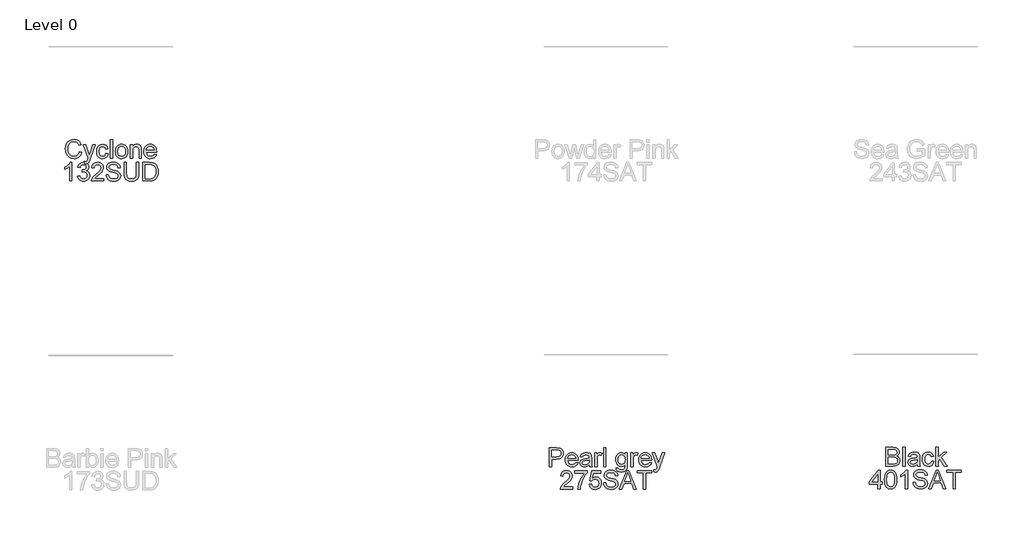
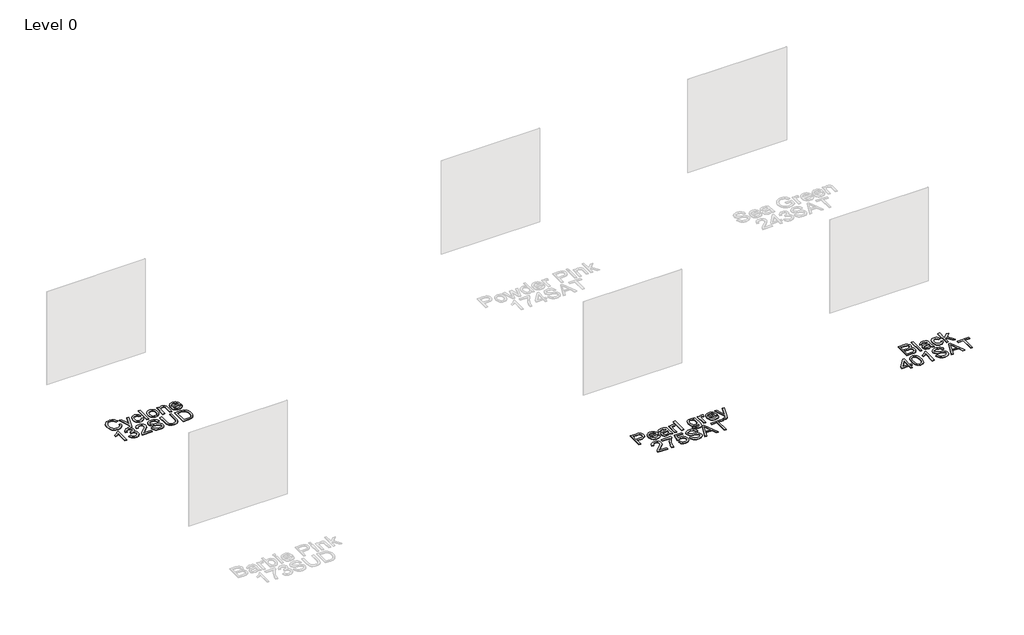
# One storey, part 29 of 37: 3 proxies.
"""IFC4 building model written with IfcOpenShell, lengths in millimetres."""

from ifc_helpers import new_model, si_unit, origin, origin_with_axes, place, context, project, spatial, polyline, outline, extrude, element, save

model = new_model("IFC4")

# Units and contexts
model_context = context("Model", 3, world=origin())
ifc_project = project(units=[si_unit("LENGTHUNIT", "METRE", prefix="MILLI")], contexts=[model_context])

# Site, building, storey
site = spatial("IfcSite", under=ifc_project)
building = spatial("IfcBuilding", under=site)
storey = spatial("IfcBuildingStorey", under=building, Name="Level 0", Elevation=0.0)

# Proxies
placement = place(None, origin())
element("IfcBuildingElementProxy", 1, Name="300mm Arial", ObjectType="300mm Arial", at=placement, inside=storey, context=model_context, shape_type="SweptSolid", body=[
    extrude(outline(polyline([(10043.1363183, -6895.733257), (10080.8074346, -6905.4453417), (10073.3532257, -6928.872527), (10063.4250104, -6949.3428607), (10051.0227886, -6966.856343), (10036.1465604, -6981.4129737), (10019.1320181, -6992.856403), (10000.3148541, -7001.0302811), (9979.6950683, -7005.9346079), (9957.2726607, -7007.5693835), (9913.5774767, -7002.6213707), (9878.8770075, -6987.7773322), (9852.2791392, -6963.5523028), (9832.8917581, -6930.4613173), (9821.0551549, -6891.5577963), (9817.1096205, -6849.8951604), (9821.5701897, -6805.9516561), (9834.9518973, -6768.0046283), (9856.5557674, -6737.2588905), (9885.6828244, -6714.9192564), (9920.2269437, -6701.3168196), (9958.082001, -6696.782674), (9999.3859521, -6702.6503918), (10017.3546883, -6709.9850391), (10033.5345983, -6720.2535453), (10047.6589676, -6733.1845974), (10059.4610819, -6748.5068825), (10076.0985451, -6786.3251516), (10038.4274288, -6795.3014723), (10025.367618, -6767.8298843), (10007.5253412, -6748.9851291), (9984.6798693, -6738.086625), (9956.6104731, -6734.4537903), (9924.2552516, -6738.4820981), (9897.6757774, -6750.5670217), (9877.5066471, -6769.439368), (9864.3824569, -6793.8299443), (9857.1811668, -6821.4026999), (9854.7807368, -6849.821584), (9857.6226252, -6884.6232207), (9866.1482904, -6914.7159679), (9880.6796293, -6938.9501944), (9901.5385384, -6956.1762688), (9926.545317, -6966.4677676), (9953.5202643, -6969.8982672), (9984.9649778, -6965.2261659), (10011.1673729, -6951.2098619), (10030.9502272, -6927.996508), (10043.1363183, -6895.733257)])), origin_with_axes(), (0.0, 0.0, 1.0), 10.0),
    extrude(outline(polyline([(10127.89633, -7087.6205057), (10123.1874405, -7051.3473409), (10142.3173042, -7054.6582789), (10160.1963692, -7050.5012124), (10171.1592527, -7038.9129295), (10181.4599485, -7011.1746271), (10184.4030045, -7002.0511536), (10104.3518823, -6781.5426857), (10144.0831378, -6781.5426857), (10186.53672, -6904.4152721), (10201.3255763, -6953.5643066), (10216.1144325, -6910.1542312), (10259.7452371, -6781.5426857), (10299.182187, -6781.5426857), (10222.1476972, -7008.1579947), (10202.1349166, -7057.3070293), (10191.8894031, -7072.9971964), (10180.2827261, -7083.8681093), (10166.799851, -7090.2140737), (10150.9257429, -7092.3293952), (10127.89633, -7087.6205057)])), origin_with_axes(), (0.0, 0.0, 1.0), 10.0),
    extrude(outline(polyline([(10471.6452663, -6922.8093718), (10509.3163826, -6927.5182614), (10498.8133517, -6961.0231141), (10479.0764826, -6986.3425924), (10451.9635796, -7002.2626857), (10419.3324466, -7007.5693835), (10398.2045238, -7005.7184772), (10379.2609003, -7000.1657584), (10362.5015761, -6990.9112269), (10347.9265513, -6977.9548829), (10336.1290356, -6961.5404481), (10327.7022386, -6941.9116444), (10322.6461605, -6919.0684718), (10320.9608011, -6893.0109302), (10323.8394777, -6859.4876834), (10332.4755075, -6830.4342028), (10347.0068463, -6806.9725286), (10367.5714499, -6790.2247008), (10392.1735583, -6780.1815223), (10418.8174118, -6776.8337961), (10450.6484014, -6781.4323211), (10476.0966385, -6795.2278959), (10494.3527825, -6817.4847566), (10504.6074931, -6847.4671392), (10466.9363768, -6852.1760288), (10460.1029687, -6835.7409006), (10449.461982, -6823.9594797), (10435.6020278, -6816.8685543), (10419.1117174, -6814.5049125), (10394.7671264, -6819.1586197), (10375.4441246, -6833.1197414), (10362.8349692, -6857.1424357), (10358.6319174, -6891.9808606), (10362.7429987, -6927.2883351), (10375.0762426, -6951.3938029), (10394.0497565, -6965.2721511), (10418.0816478, -6969.8982672), (10437.5885906, -6967.0103936), (10453.5822603, -6958.3467726), (10465.2165284, -6943.6866751), (10471.6452663, -6922.8093718)])), origin_with_axes(), (0.0, 0.0, 1.0), 10.0),
    extrude(outline(polyline([(10542.2786094, -7002.860494), (10542.2786094, -6701.4915635), (10579.9497257, -6701.4915635), (10579.9497257, -7002.860494), (10542.2786094, -7002.860494)])), origin_with_axes(), (0.0, 0.0, 1.0), 10.0),
    extrude(outline(polyline([(10627.0386211, -6892.2015898), (10629.0757676, -6863.5389839), (10635.1872073, -6838.8403064), (10645.37294, -6818.1055575), (10659.6329658, -6801.334737), (10673.9895607, -6790.6155754), (10689.8360777, -6782.9590314), (10707.1725167, -6778.3651049), (10725.9988778, -6776.8337961), (10746.7819112, -6778.698498), (10765.5737834, -6784.2926036), (10782.3744943, -6793.6161129), (10797.1840438, -6806.669026), (10809.2712666, -6823.0098843), (10817.9049972, -6842.1972296), (10823.0852356, -6864.2310619), (10824.8119817, -6889.1113811), (10821.7585611, -6927.1687735), (10812.5982994, -6956.1394806), (10797.5979111, -6977.8353213), (10777.0241105, -6994.0681143), (10752.587549, -7004.1940662), (10725.9988778, -7007.5693835), (10704.9123417, -7005.7115794), (10685.9457256, -7000.1381672), (10669.0990294, -6990.8491468), (10654.3722533, -6977.8445183), (10642.4137892, -6961.3450108), (10633.8720291, -6941.5713536), (10628.7469731, -6918.5235466), (10627.0386211, -6892.2015898)]), holes=[polyline([(10664.7097374, -6892.1280134), (10669.069139, -6926.2214773), (10682.147344, -6950.5108861), (10701.8290307, -6965.0514219), (10725.9988778, -6969.8982672), (10750.0583603, -6965.0238308), (10769.7032588, -6950.4005215), (10782.7814637, -6925.789216), (10787.1408654, -6890.950791), (10782.7538726, -6857.8506085), (10769.5928942, -6833.8922936), (10749.9204045, -6819.3517577), (10725.9988778, -6814.5049125), (10701.8290307, -6819.3333636), (10682.147344, -6833.8187172), (10669.069139, -6858.0529436), (10664.7097374, -6892.1280134)])]), origin_with_axes(), (0.0, 0.0, 1.0), 10.0),
    extrude(outline(polyline([(10867.1919875, -7002.860494), (10867.1919875, -6781.5426857), (10904.8631038, -6781.5426857), (10904.8631038, -6812.4447733), (10917.9505058, -6796.8649708), (10933.6682641, -6785.7365404), (10952.0163786, -6779.0594822), (10972.9948493, -6776.8337961), (10991.563693, -6778.6272209), (11008.5690383, -6784.0074951), (11022.7508892, -6792.303234), (11032.84925, -6802.8430532), (11044.1432272, -6830.5445674), (11046.12979, -6866.964885), (11046.12979, -7002.860494), (11008.4586737, -7002.860494), (11008.4586737, -6872.0416565), (11004.1176661, -6838.7115477), (10998.1119926, -6828.7879309), (10988.7769869, -6821.0900002), (10976.811625, -6816.1511844), (10962.9148827, -6814.5049125), (10940.85116, -6818.2021265), (10922.043193, -6829.2937687), (10914.526904, -6838.3482643), (10909.1581261, -6850.7228949), (10904.8631038, -6885.4325611), (10904.8631038, -7002.860494), (10867.1919875, -7002.860494)])), origin_with_axes(), (0.0, 0.0, 1.0), 10.0),
    extrude(outline(polyline([(11252.8794713, -6936.9360404), (11289.8148236, -6941.64493), (11276.5066924, -6969.4752029), (11255.2707042, -6990.2789297), (11226.5851057, -7003.2467701), (11190.9281433, -7007.5693835), (11167.553841, -7005.7046817), (11146.7271216, -7000.1105761), (11128.4479849, -6990.7870668), (11112.7164311, -6977.7341537), (11100.065889, -6961.3151204), (11091.0297875, -6941.8932503), (11085.6081266, -6919.4685435), (11083.8009063, -6894.0409998), (11085.6265207, -6867.7512327), (11091.1033639, -6844.5792656), (11100.2314359, -6824.5250983), (11113.0107367, -6807.5887309), (11128.7009038, -6794.133447), (11146.5615747, -6784.5225298), (11166.5927493, -6778.7559796), (11188.7944277, -6776.8337961), (11210.2810355, -6778.751381), (11229.7121026, -6784.5041357), (11247.0876291, -6794.0920602), (11262.4076149, -6807.5151545), (11274.9133035, -6824.4147337), (11283.8459382, -6844.4321128), (11289.205519, -6867.5672917), (11290.992046, -6893.8202706), (11290.7713168, -6903.9738137), (11121.4720226, -6903.9738137), (11127.992731, -6932.1719686), (11143.1402721, -6952.902119), (11165.0016597, -6965.6492302), (11191.6639073, -6969.8982672), (11211.713476, -6967.9300985), (11228.5992596, -6962.0255925), (11242.321258, -6951.8168672), (11252.8794713, -6936.9360404)]), holes=[polyline([(11121.4720226, -6866.3026974), (11253.3209297, -6866.3026974), (11248.225764, -6846.4002814), (11238.2377679, -6832.1632482), (11216.2752127, -6818.9194964), (11188.6472749, -6814.5049125), (11163.2542202, -6818.0273826), (11142.2573553, -6828.5947929), (11127.6616372, -6845.0667092), (11121.4720226, -6866.3026974)])]), origin_with_axes(), (0.0, 0.0, 1.0), 10.0),
    extrude(outline(polyline([(9923.0596351, -7368.7849475), (9885.3885188, -7368.7849475), (9885.3885188, -7133.9290818), (9849.7039653, -7159.3497277), (9810.0462862, -7178.3692268), (9810.0462862, -7142.7582497), (9839.6331956, -7126.6634124), (9865.2653737, -7107.5151545), (9885.4712922, -7087.1528861), (9898.7794234, -7067.4160171), (9923.0596351, -7067.4160171), (9923.0596351, -7368.7849475)])), origin_with_axes(), (0.0, 0.0, 1.0), 10.0),
    extrude(outline(polyline([(10012.5285363, -7288.7338254), (10050.1996526, -7284.0249358), (10058.6333474, -7307.6981422), (10070.9849854, -7323.6826149), (10087.8615719, -7332.7876943), (10109.8701123, -7335.8227207), (10135.6954283, -7331.6472601), (10155.6346325, -7319.1208782), (10168.3817436, -7300.4324728), (10172.6307806, -7277.7709419), (10168.4185318, -7256.2590422), (10155.7817853, -7238.8122386), (10136.6519215, -7227.2515469), (10112.960321, -7223.397983), (10086.5463938, -7227.5182614), (10090.7402485, -7189.8471451), (10096.7735132, -7190.2886035), (10119.3430736, -7187.5846708), (10139.5214011, -7179.4728728), (10153.7584343, -7165.7508744), (10158.504112, -7146.2163404), (10155.0644154, -7129.9467592), (10144.7453254, -7116.7489926), (10128.999976, -7108.0025982), (10109.2815011, -7105.0871334), (10089.5262379, -7108.0301893), (10073.3762183, -7116.8593572), (10061.5856004, -7131.574637), (10054.9085422, -7152.1760288), (10017.2374259, -7147.4671392), (10028.329068, -7113.6403898), (10048.0659371, -7088.3852908), (10075.0684755, -7072.6583355), (10107.9571259, -7067.4160171), (10131.6395293, -7070.0003881), (10153.3905523, -7077.7535011), (10171.7294697, -7089.9855775), (10185.1755567, -7106.0068384), (10193.4253104, -7124.4653175), (10196.1752283, -7144.0090485), (10193.5632662, -7162.2192072), (10185.7273797, -7178.7371088), (10172.7779334, -7192.8085951), (10154.8252921, -7203.6795081), (10178.406528, -7213.2076518), (10195.8809227, -7229.4312477), (10206.6966534, -7251.4673793), (10210.3018969, -7278.4331295), (10208.4992752, -7297.5445992), (10203.0914098, -7315.1477526), (10194.078301, -7331.2425899), (10181.4599485, -7345.829111), (10166.0870796, -7357.9324287), (10148.8104214, -7366.5776555), (10129.6299739, -7371.7647917), (10108.5457371, -7373.4938371), (10089.4894497, -7372.0177105), (10072.1254195, -7367.589331), (10056.4536466, -7360.2086985), (10042.4741307, -7349.875813), (10030.7524907, -7337.1976797), (10021.8543449, -7322.781304), (10015.7796935, -7306.6266859), (10012.5285363, -7288.7338254)])), origin_with_axes(), (0.0, 0.0, 1.0), 10.0),
    extrude(outline(polyline([(10436.3285948, -7331.1138312), (10436.3285948, -7368.7849475), (10238.5552342, -7368.7849475), (10242.6019361, -7342.8124787), (10251.8909565, -7322.5145896), (10265.4841962, -7302.8237058), (10285.1474889, -7282.213117), (10312.646668, -7259.156113), (10353.2976285, -7223.0484951), (10377.6882047, -7196.3954446), (10389.8834929, -7174.7639833), (10393.9485889, -7153.7211331), (10390.1134191, -7134.8579838), (10378.6079097, -7119.1770138), (10360.9219828, -7108.6096035), (10338.5455605, -7105.0871334), (10315.047098, -7108.52683), (10296.790954, -7118.84592), (10285.0095331, -7135.2350629), (10280.93524, -7156.8849183), (10243.2641237, -7152.1760288), (10252.3967942, -7115.7373171), (10260.9431528, -7101.2013798), (10272.1428603, -7089.1210548), (10285.7383993, -7079.6251008), (10301.4722524, -7072.8422765), (10339.3549008, -7067.4160171), (10359.5447246, -7068.9243332), (10377.5134608, -7073.4492818), (10393.2611095, -7080.9908627), (10406.7876706, -7091.549076), (10417.6516857, -7104.3421723), (10425.4116966, -7118.5884026), (10430.0677031, -7134.2877667), (10431.6197052, -7151.4402648), (10429.9458422, -7169.4572855), (10424.9242529, -7187.1616065), (10416.0123116, -7205.1694302), (10402.6673922, -7224.0969588), (10381.3946158, -7246.6941104), (10348.6991035, -7275.7108027), (10305.3626045, -7311.9471793), (10288.3664563, -7331.1138312), (10436.3285948, -7331.1138312)])), origin_with_axes(), (0.0, 0.0, 1.0), 10.0),
    extrude(outline(polyline([(10473.9997111, -7265.1893777), (10511.6708274, -7265.1893777), (10515.9934408, -7286.0942721), (10523.8109332, -7302.8972822), (10536.0062214, -7316.2330045), (10553.462222, -7326.7360355), (10574.7993778, -7333.5510494), (10598.638131, -7335.8227207), (10619.6257989, -7334.1028724), (10638.0015045, -7328.9433274), (10652.8915283, -7320.7763471), (10663.4221504, -7310.0341929), (10669.6853414, -7297.700949), (10671.7730717, -7284.7606998), (10670.2095732, -7272.1515444), (10665.5190778, -7261.2530403), (10655.9909341, -7251.9548229), (10639.9144909, -7244.1465276), (10585.0632854, -7229.7623415), (10549.0568351, -7220.2433949), (10526.0182252, -7211.1843008), (10507.2654405, -7198.510766), (10493.9757034, -7183.1516928), (10486.0570435, -7165.4381747), (10483.4174902, -7145.7013056), (10486.6824429, -7123.637583), (10496.477301, -7103.0637824), (10512.5445471, -7085.6261758), (10534.6266639, -7072.9710352), (10561.1325616, -7065.2731044), (10590.4711508, -7062.7071275), (10622.2561551, -7065.3926661), (10650.068034, -7073.4492818), (10672.9135059, -7086.7114277), (10689.7992895, -7105.013557), (10700.4862614, -7127.2152354), (10704.7352985, -7152.1760288), (10667.0641821, -7152.1760288), (10660.1480006, -7129.6984389), (10645.7270264, -7113.4748429), (10623.1942542, -7103.6523936), (10591.9426787, -7100.3782438), (10559.9553393, -7103.6156054), (10538.0111782, -7113.3276901), (10525.3192494, -7127.6199056), (10521.0886065, -7144.5976597), (10524.0868447, -7159.0738162), (10533.0815595, -7170.7172813), (10554.3451388, -7181.1283418), (10594.5914291, -7191.7601314), (10636.1253064, -7201.8584922), (10661.2516466, -7210.669266), (10682.7267581, -7224.3360821), (10697.7087523, -7241.2034716), (10706.5103291, -7261.0874934), (10709.444188, -7283.8042066), (10706.0688707, -7307.0267576), (10695.9429188, -7328.869751), (10679.4801995, -7347.668521), (10657.0945801, -7361.7584014), (10630.1748151, -7370.5599781), (10600.109659, -7373.4938371), (10563.2018979, -7370.3300519), (10532.8240421, -7360.8386964), (10508.6266039, -7344.9829824), (10490.2600953, -7322.7261217), (10478.4694773, -7295.6132187), (10473.9997111, -7265.1893777)])), origin_with_axes(), (0.0, 0.0, 1.0), 10.0),
    extrude(outline(polyline([(10963.7242231, -7067.4160171), (11001.3953394, -7067.4160171), (11001.3953394, -7241.277048), (10998.8385595, -7281.9923878), (10991.1682199, -7313.3451308), (10976.8392162, -7337.533372), (10954.306444, -7356.7552063), (10923.514721, -7369.3091794), (10884.4088649, -7373.4938371), (10846.1583345, -7369.8518053), (10815.5781436, -7358.92571), (10792.6590953, -7341.0926303), (10777.3919925, -7316.7296452), (10768.811145, -7284.052527), (10765.9508625, -7241.277048), (10765.9508625, -7067.4160171), (10803.6219788, -7067.4160171), (10803.6219788, -7239.9526728), (10805.4797828, -7273.8070134), (10811.0531951, -7297.3790523), (10821.1515558, -7313.7038158), (10836.5842055, -7325.8163305), (10856.7073507, -7333.3211232), (10880.8771977, -7335.8227207), (10919.1921075, -7330.8747079), (10933.5349068, -7324.6896919), (10944.6679357, -7316.0306694), (10953.0050614, -7303.8537754), (10958.9601512, -7287.1151446), (10963.7242231, -7239.9526728), (10963.7242231, -7067.4160171)])), origin_with_axes(), (0.0, 0.0, 1.0), 10.0),
    extrude(outline(polyline([(11067.3197929, -7368.7849475), (11067.3197929, -7067.4160171), (11171.2832447, -7067.4160171), (11225.0675924, -7071.7570246), (11249.0902867, -7080.12634), (11269.3605847, -7093.3149095), (11290.2010997, -7116.270746), (11305.0451382, -7144.8183889), (11313.9294884, -7178.406015), (11316.8909384, -7216.4818015), (11314.8859816, -7248.8278259), (11308.8711109, -7277.2926953), (11299.7108493, -7301.5269217), (11288.2697192, -7321.1810173), (11275.0995438, -7336.6964405), (11260.752146, -7348.5146496), (11244.2802296, -7357.2794381), (11224.7364986, -7363.6345996), (11176.2864399, -7368.7849475), (11067.3197929, -7368.7849475)]), holes=[polyline([(11104.9909092, -7331.1138312), (11171.6511267, -7331.1138312), (11199.2238823, -7329.7526678), (11220.1379737, -7325.6691777), (11235.9201113, -7319.1024841), (11248.0970053, -7310.2917103), (11261.1844073, -7293.9853408), (11271.0160536, -7272.8781114), (11277.16888, -7246.8780514), (11279.2198221, -7215.8931903), (11275.2007113, -7174.8375597), (11263.1433789, -7144.5240833), (11245.3286933, -7123.7019623), (11224.0375228, -7111.1203981), (11202.3692733, -7106.5954496), (11170.6210571, -7105.0871334), (11104.9909092, -7105.0871334), (11104.9909092, -7331.1138312)])]), origin_with_axes(), (0.0, 0.0, 1.0), 10.0),
])
element("IfcBuildingElementProxy", 2, Name="300mm Arial", ObjectType="300mm Arial", at=placement, inside=storey, context=model_context, shape_type="SweptSolid", body=[
    extrude(outline(polyline([(17633.4629285, -11981.860494), (17633.4629285, -11680.4915635), (17745.1519022, -11680.4915635), (17790.1806584, -11683.3610431), (17810.2578183, -11688.7229232), (17826.784917, -11697.4509235), (17840.0930481, -11709.9405172), (17850.5133057, -11726.5871775), (17857.2455462, -11746.222879), (17859.4896263, -11767.6795964), (17857.9744124, -11786.1794622), (17853.4287705, -11803.198603), (17845.8527006, -11818.7370188), (17835.2462029, -11832.7947095), (17820.6849736, -11844.4473717), (17801.2447095, -11852.7707019), (17776.9254103, -11857.7647), (17747.7270762, -11859.429366), (17671.1340448, -11859.429366), (17671.1340448, -11981.860494), (17633.4629285, -11981.860494)]), holes=[polyline([(17671.1340448, -11821.7582497), (17749.9343682, -11821.7582497), (17783.3380533, -11818.3001589), (17805.410973, -11807.9258867), (17817.7166258, -11791.2792264), (17821.81851, -11769.0039716), (17819.3996859, -11752.0813998), (17812.1432136, -11737.8075784), (17800.9504039, -11727.0654241), (17786.7225677, -11720.7378538), (17749.0514514, -11718.1626798), (17671.1340448, -11718.1626798), (17671.1340448, -11821.7582497)])]), origin_with_axes(), (0.0, 0.0, 1.0), 10.0),
    extrude(outline(polyline([(18061.5304181, -11915.9360404), (18098.4657704, -11920.64493), (18085.1576392, -11948.4752029), (18063.9216511, -11969.2789297), (18035.2360525, -11982.2467701), (17999.5790901, -11986.5693835), (17976.2047878, -11984.7046817), (17955.3780684, -11979.1105761), (17937.0989317, -11969.7870668), (17921.3673779, -11956.7341537), (17908.7168358, -11940.3151204), (17899.6807343, -11920.8932503), (17894.2590734, -11898.4685435), (17892.4518531, -11873.0409998), (17894.2774675, -11846.7512327), (17899.7543107, -11823.5792656), (17908.8823827, -11803.5250983), (17921.6616835, -11786.5887309), (17937.3518506, -11773.133447), (17955.2125215, -11763.5225298), (17975.2436961, -11757.7559796), (17997.4453745, -11755.8337961), (18018.9319823, -11757.751381), (18038.3630494, -11763.5041357), (18055.7385759, -11773.0920602), (18071.0585618, -11786.5151545), (18083.5642503, -11803.4147337), (18092.496885, -11823.4321128), (18097.8564658, -11846.5672917), (18099.6429928, -11872.8202706), (18099.4222636, -11882.9738137), (17930.1229694, -11882.9738137), (17936.6436778, -11911.1719686), (17951.7912189, -11931.902119), (17973.6526065, -11944.6492302), (18000.3148541, -11948.8982672), (18020.3644228, -11946.9300985), (18037.2502064, -11941.0255925), (18050.9722048, -11930.8168672), (18061.5304181, -11915.9360404)]), holes=[polyline([(17930.1229694, -11845.3026974), (18061.9718765, -11845.3026974), (18056.8767108, -11825.4002814), (18046.8887147, -11811.1632482), (18024.9261596, -11797.9194964), (17997.2982217, -11793.5049125), (17971.905167, -11797.0273826), (17950.9083021, -11807.5947929), (17936.312584, -11824.0667092), (17930.1229694, -11845.3026974)])]), origin_with_axes(), (0.0, 0.0, 1.0), 10.0),
    extrude(outline(polyline([(18278.5807952, -11953.6071568), (18260.5821686, -11969.0398064), (18242.0501131, -11979.1381672), (18222.5615644, -11984.7115794), (18201.6934583, -11986.5693835), (18170.2119565, -11982.0996173), (18146.9894056, -11968.6903186), (18132.6695989, -11948.3280501), (18127.89633, -11922.9993748), (18129.6989518, -11907.3827841), (18135.1068171, -11893.2009331), (18143.4485414, -11881.0608273), (18154.0527399, -11871.5694718), (18180.4298789, -11859.2086368), (18213.0242237, -11853.5432541), (18251.5414686, -11847.5835657), (18278.360066, -11840.5938078), (18278.5807952, -11832.2060983), (18275.9872272, -11815.3938912), (18268.206523, -11804.3942195), (18250.8057046, -11796.2272392), (18226.5622811, -11793.5049125), (18204.1214794, -11795.3167313), (18188.4497064, -11800.7521878), (18177.7627345, -11810.8045633), (18170.2763359, -11826.4671392), (18132.6052196, -11821.7582497), (18139.144322, -11801.156858), (18148.9023919, -11784.9700502), (18162.7899373, -11772.590821), (18181.7174659, -11763.4121652), (18204.8664405, -11757.7283884), (18231.4183235, -11755.8337961), (18256.8849546, -11757.5076592), (18277.0724791, -11762.5292485), (18292.2935966, -11770.0800264), (18302.8610069, -11779.3414556), (18309.8691589, -11790.7917827), (18314.4125016, -11804.9092543), (18316.2519115, -11837.8714811), (18316.2519115, -11884.7396473), (18318.1648979, -11950.1858542), (18325.6696906, -11981.860494), (18287.9985743, -11981.860494), (18278.5807952, -11953.6071568)]), holes=[polyline([(18278.5807952, -11878.2649241), (18217.8066896, -11889.8164188), (18185.3962859, -11895.9232599), (18170.7177943, -11905.8560738), (18165.5674463, -11920.3506244), (18168.3725465, -11931.5526311), (18176.7878472, -11940.7312869), (18190.6294072, -11946.8565221), (18209.7132857, -11948.8982672), (18229.9467955, -11946.64499), (18247.8258604, -11939.8851583), (18262.3204111, -11929.9247533), (18272.4003777, -11918.069756), (18276.870144, -11905.8560738), (18278.360066, -11888.933502), (18278.5807952, -11878.2649241)])]), origin_with_axes(), (0.0, 0.0, 1.0), 10.0),
    extrude(outline(polyline([(18368.0496965, -11981.860494), (18368.0496965, -11760.5426857), (18401.0119232, -11760.5426857), (18401.0119232, -11793.2841833), (18413.1888173, -11774.3014723), (18424.4092181, -11763.1178596), (18435.6664072, -11757.654812), (18447.9536658, -11755.8337961), (18466.7156476, -11758.7400639), (18485.7719349, -11767.4588672), (18473.1903707, -11801.2304343), (18459.9466189, -11795.4362929), (18446.702867, -11793.5049125), (18435.454875, -11795.3627165), (18425.4024995, -11800.9361288), (18417.2815045, -11809.8020848), (18411.8276539, -11821.5375205), (18407.2475231, -11842.5803706), (18405.7208128, -11865.5362071), (18405.7208128, -11981.860494), (18368.0496965, -11981.860494)])), origin_with_axes(), (0.0, 0.0, 1.0), 10.0),
    extrude(outline(polyline([(18509.3163826, -11981.860494), (18509.3163826, -11680.4915635), (18546.9874989, -11680.4915635), (18546.9874989, -11981.860494), (18509.3163826, -11981.860494)])), origin_with_axes(), (0.0, 0.0, 1.0), 10.0),
    extrude(outline(polyline([(18711.7986328, -12000.6960521), (18749.4697491, -12005.4049417), (18753.6268156, -12017.1771655), (18761.6834313, -12025.2705694), (18777.5207512, -12031.5613515), (18798.2509016, -12033.6582789), (18820.3606095, -12031.28544), (18836.8049347, -12024.1669234), (18848.2092766, -12012.7625816), (18855.1990345, -11997.532267), (18857.7742084, -11953.6071568), (18845.2386295, -11965.9679918), (18831.2499166, -11974.7971597), (18815.8080698, -11980.0946604), (18798.9130892, -11981.860494), (18778.2588145, -11979.8049533), (18760.0739476, -11973.6383314), (18744.3584886, -11963.3606281), (18731.1124375, -11948.9718436), (18720.6025088, -11931.708981), (18713.0954168, -11912.8090435), (18708.5911616, -11892.2720311), (18707.0897432, -11870.0979438), (18709.7844788, -11839.6832999), (18717.8686857, -11811.7150712), (18731.0572552, -11788.0142737), (18749.0650789, -11770.4019232), (18771.2759543, -11759.4758279), (18797.0736792, -11755.8337961), (18814.6906283, -11757.8939353), (18830.6796995, -11764.0743528), (18845.0408929, -11774.3750487), (18857.7742084, -11788.7960229), (18857.7742084, -11760.5426857), (18895.4453248, -11760.5426857), (18895.4453248, -11951.620594), (18892.8701508, -11995.7388422), (18885.1446289, -12024.7923228), (18871.8364977, -12044.0601423), (18852.5134959, -12058.8214074), (18827.5986878, -12068.2023982), (18797.5151376, -12071.3293952), (18762.4651805, -12066.9240083), (18734.8648339, -12053.7078476), (18724.4698682, -12043.7865301), (18717.1605128, -12031.644125), (18712.9367677, -12017.2806323), (18711.7986328, -12000.6960521)]), holes=[polyline([(18744.7608595, -11867.5227699), (18748.7799703, -11902.0760863), (18760.8373027, -11925.8320661), (18778.964688, -11939.6000498), (18801.1939576, -11944.1893777), (18823.2576803, -11939.6276409), (18841.4770361, -11925.9424307), (18853.6999154, -11902.4899535), (18857.7742084, -11868.6264159), (18853.5803537, -11835.9676917), (18840.9987895, -11812.4508352), (18822.5127192, -11798.2413931), (18800.6053464, -11793.5049125), (18779.0934467, -11798.1678167), (18761.0580319, -11812.1565296), (18748.8351526, -11835.3238983), (18744.7608595, -11867.5227699)])]), origin_with_axes(), (0.0, 0.0, 1.0), 10.0),
    extrude(outline(polyline([(18951.9519992, -11981.860494), (18951.9519992, -11760.5426857), (18984.914226, -11760.5426857), (18984.914226, -11793.2841833), (18997.09112, -11774.3014723), (19008.3115209, -11763.1178596), (19019.5687099, -11757.654812), (19031.8559686, -11755.8337961), (19050.6179503, -11758.7400639), (19069.6742377, -11767.4588672), (19057.0926734, -11801.2304343), (19043.8489216, -11795.4362929), (19030.6051698, -11793.5049125), (19019.3571778, -11795.3627165), (19009.3048023, -11800.9361288), (19001.1838072, -11809.8020848), (18995.7299566, -11821.5375205), (18991.1498258, -11842.5803706), (18989.6231155, -11865.5362071), (18989.6231155, -11981.860494), (18951.9519992, -11981.860494)])), origin_with_axes(), (0.0, 0.0, 1.0), 10.0),
    extrude(outline(polyline([(19248.1705817, -11915.9360404), (19285.105934, -11920.64493), (19271.7978029, -11948.4752029), (19250.5618147, -11969.2789297), (19221.8762161, -11982.2467701), (19186.2192537, -11986.5693835), (19162.8449515, -11984.7046817), (19142.018232, -11979.1105761), (19123.7390954, -11969.7870668), (19108.0075416, -11956.7341537), (19095.3569995, -11940.3151204), (19086.320898, -11920.8932503), (19080.899237, -11898.4685435), (19079.0920167, -11873.0409998), (19080.9176311, -11846.7512327), (19086.3944744, -11823.5792656), (19095.5225464, -11803.5250983), (19108.3018472, -11786.5887309), (19123.9920143, -11773.133447), (19141.8526851, -11763.5225298), (19161.8838598, -11757.7559796), (19184.0855382, -11755.8337961), (19205.572146, -11757.751381), (19225.0032131, -11763.5041357), (19242.3787396, -11773.0920602), (19257.6987254, -11786.5151545), (19270.204414, -11803.4147337), (19279.1370487, -11823.4321128), (19284.4966295, -11846.5672917), (19286.2831564, -11872.8202706), (19286.0624272, -11882.9738137), (19116.7631331, -11882.9738137), (19123.2838414, -11911.1719686), (19138.4313826, -11931.902119), (19160.2927701, -11944.6492302), (19186.9550177, -11948.8982672), (19207.0045865, -11946.9300985), (19223.89037, -11941.0255925), (19237.6123685, -11930.8168672), (19248.1705817, -11915.9360404)]), holes=[polyline([(19116.7631331, -11845.3026974), (19248.6120401, -11845.3026974), (19243.5168745, -11825.4002814), (19233.5288783, -11811.1632482), (19211.5663232, -11797.9194964), (19183.9383854, -11793.5049125), (19158.5453307, -11797.0273826), (19137.5484658, -11807.5947929), (19122.9527476, -11824.0667092), (19116.7631331, -11845.3026974)])]), origin_with_axes(), (0.0, 0.0, 1.0), 10.0),
    extrude(outline(polyline([(19323.9542727, -12066.6205057), (19319.2453832, -12030.3473409), (19338.3752469, -12033.6582789), (19356.2543119, -12029.5012124), (19367.2171954, -12017.9129295), (19377.5178912, -11990.1746271), (19380.4609472, -11981.0511536), (19300.409825, -11760.5426857), (19340.1410805, -11760.5426857), (19382.5946628, -11883.4152721), (19397.383519, -11932.5643066), (19412.1723752, -11889.1542312), (19455.8031798, -11760.5426857), (19495.2401297, -11760.5426857), (19418.2056399, -11987.1579947), (19398.1928594, -12036.3070293), (19387.9473458, -12051.9971964), (19376.3406688, -12062.8681093), (19362.8577937, -12069.2140737), (19346.9836856, -12071.3293952), (19323.9542727, -12066.6205057)])), origin_with_axes(), (0.0, 0.0, 1.0), 10.0),
    extrude(outline(polyline([(18010.1740916, -12310.1138312), (18010.1740916, -12347.7849475), (17812.400731, -12347.7849475), (17816.4474329, -12321.8124787), (17825.7364533, -12301.5145896), (17839.329693, -12281.8237058), (17858.9929856, -12261.213117), (17886.4921648, -12238.156113), (17927.1431253, -12202.0484951), (17951.5337015, -12175.3954446), (17963.7289897, -12153.7639833), (17967.7940857, -12132.7211331), (17963.9589159, -12113.8579838), (17952.4534065, -12098.1770138), (17934.7674796, -12087.6096035), (17912.3910572, -12084.0871334), (17888.8925948, -12087.52683), (17870.6364508, -12097.84592), (17858.8550299, -12114.2350629), (17854.7807368, -12135.8849183), (17817.1096205, -12131.1760288), (17826.242291, -12094.7373171), (17834.7886496, -12080.2013798), (17845.9883571, -12068.1210548), (17859.5838961, -12058.6251008), (17875.3177492, -12051.8422765), (17913.2003976, -12046.4160171), (17933.3902214, -12047.9243332), (17951.3589576, -12052.4492818), (17967.1066062, -12059.9908627), (17980.6331673, -12070.549076), (17991.4971825, -12083.3421723), (17999.2571934, -12097.5884026), (18003.9131999, -12113.2877667), (18005.465202, -12130.4402648), (18003.7913389, -12148.4572855), (17998.7697497, -12166.1616065), (17989.8578084, -12184.1694302), (17976.512889, -12203.0969588), (17955.2401126, -12225.6941104), (17922.5446003, -12254.7108027), (17879.2081013, -12290.9471793), (17862.2119531, -12310.1138312), (18010.1740916, -12310.1138312)])), origin_with_axes(), (0.0, 0.0, 1.0), 10.0),
    extrude(outline(polyline([(18047.8452079, -12088.7960229), (18047.8452079, -12051.1249066), (18245.6185685, -12051.1249066), (18245.6185685, -12081.5855358), (18217.4296106, -12117.2608923), (18189.5165642, -12162.6299393), (18164.8960617, -12213.5540045), (18146.5847354, -12265.8944154), (18137.6084147, -12305.0554538), (18132.6052196, -12347.7849475), (18094.9341033, -12347.7849475), (18099.0083963, -12308.9550029), (18109.9069005, -12262.8042066), (18127.33531, -12213.8850983), (18150.9993193, -12166.7502177), (18178.6272572, -12124.1402856), (18207.9474522, -12088.7960229), (18047.8452079, -12088.7960229)])), origin_with_axes(), (0.0, 0.0, 1.0), 10.0),
    extrude(outline(polyline([(18278.5807952, -12267.7338254), (18316.2519115, -12263.0249358), (18323.1680931, -12285.6404815), (18335.2346225, -12301.8364863), (18352.3963176, -12311.5761621), (18374.597996, -12314.8227207), (18401.6005344, -12310.3069693), (18421.8340442, -12296.7597148), (18434.4707907, -12275.7444558), (18438.6830395, -12248.8246908), (18434.7375051, -12223.4776213), (18422.900902, -12204.0902402), (18403.0812595, -12191.7845875), (18375.1866072, -12187.6827032), (18356.9120691, -12189.3197781), (18342.1140158, -12194.2310027), (18320.9608011, -12211.2271509), (18283.2896848, -12206.5182614), (18316.2519115, -12051.1249066), (18462.2274872, -12051.1249066), (18462.2274872, -12088.7960229), (18346.7125407, -12088.7960229), (18330.5993094, -12171.790201), (18357.5098773, -12155.4562404), (18385.7080322, -12150.0115869), (18404.0538475, -12151.6992456), (18420.9051421, -12156.7622215), (18436.2619162, -12165.2005148), (18450.1241696, -12177.0141254), (18461.5997886, -12191.4810848), (18469.7966593, -12207.8794248), (18474.7147817, -12226.2091452), (18476.3541558, -12246.470246), (18470.4496498, -12284.1413624), (18463.0690173, -12300.9351754), (18452.7361318, -12316.3678251), (18437.0827529, -12332.1729553), (18418.8174118, -12343.4623341), (18397.9401086, -12350.2359613), (18374.4508432, -12352.4938371), (18337.4511115, -12346.6904986), (18321.7724407, -12339.4363255), (18307.9745667, -12329.2804832), (18296.4943491, -12316.7288093), (18287.7686481, -12302.2871418), (18278.5807952, -12267.7338254)])), origin_with_axes(), (0.0, 0.0, 1.0), 10.0),
    extrude(outline(polyline([(18509.3163826, -12244.1893777), (18546.9874989, -12244.1893777), (18551.3101124, -12265.0942721), (18559.1276048, -12281.8972822), (18571.3228929, -12295.2330045), (18588.7788936, -12305.7360355), (18610.1160493, -12312.5510494), (18633.9548026, -12314.8227207), (18654.9424704, -12313.1028724), (18673.3181761, -12307.9433274), (18688.2081998, -12299.7763471), (18698.7388219, -12289.0341929), (18705.0020129, -12276.700949), (18707.0897432, -12263.7606998), (18705.5262447, -12251.1515444), (18700.8357493, -12240.2530403), (18691.3076056, -12230.9548229), (18675.2311624, -12223.1465276), (18620.379957, -12208.7623415), (18584.3735067, -12199.2433949), (18561.3348967, -12190.1843008), (18542.582112, -12177.510766), (18529.292375, -12162.1516928), (18521.373715, -12144.4381747), (18518.7341617, -12124.7013056), (18521.9991144, -12102.637583), (18531.7939725, -12082.0637824), (18547.8612187, -12064.6261758), (18569.9433354, -12051.9710352), (18596.4492332, -12044.2731044), (18625.7878223, -12041.7071275), (18657.5728267, -12044.3926661), (18685.3847055, -12052.4492818), (18708.2301774, -12065.7114277), (18725.115961, -12084.013557), (18735.8029329, -12106.2152354), (18740.05197, -12131.1760288), (18702.3808537, -12131.1760288), (18695.4646722, -12108.6984389), (18681.043698, -12092.4748429), (18658.5109258, -12082.6523936), (18627.2593503, -12079.3782438), (18595.2720108, -12082.6156054), (18573.3278498, -12092.3276901), (18560.6359209, -12106.6199056), (18556.405278, -12123.5976597), (18559.4035163, -12138.0738162), (18568.398231, -12149.7172813), (18589.6618104, -12160.1283418), (18629.9081006, -12170.7601314), (18671.4419779, -12180.8584922), (18696.5683182, -12189.669266), (18718.0434296, -12203.3360821), (18733.0254239, -12220.2034716), (18741.8270006, -12240.0874934), (18744.7608595, -12262.8042066), (18741.3855422, -12286.0267576), (18731.2595903, -12307.869751), (18714.796871, -12326.668521), (18692.4112516, -12340.7584014), (18665.4914866, -12349.5599781), (18635.4263306, -12352.4938371), (18598.5185694, -12349.3300519), (18568.1407136, -12339.8386964), (18543.9432754, -12323.9829824), (18525.5767668, -12301.7261217), (18513.7861489, -12274.6132187), (18509.3163826, -12244.1893777)])), origin_with_axes(), (0.0, 0.0, 1.0), 10.0),
    extrude(outline(polyline([(18766.1715916, -12347.7849475), (18886.4690041, -12046.4160171), (18918.5483141, -12046.4160171), (19038.8457265, -12347.7849475), (18999.0408946, -12347.7849475), (18964.5335634, -12253.6071568), (18840.4101783, -12253.6071568), (18805.9764235, -12347.7849475), (18766.1715916, -12347.7849475)]), holes=[polyline([(18854.2425413, -12215.9360404), (18950.7747768, -12215.9360404), (18923.6250856, -12141.8446066), (18902.5086591, -12084.0871334), (18883.7466773, -12135.3698835), (18854.2425413, -12215.9360404)])]), origin_with_axes(), (0.0, 0.0, 1.0), 10.0),
    extrude(outline(polyline([(19154.4342494, -12347.7849475), (19154.4342494, -12084.0871334), (19055.5475691, -12084.0871334), (19055.5475691, -12046.4160171), (19290.992046, -12046.4160171), (19290.992046, -12084.0871334), (19192.1053657, -12084.0871334), (19192.1053657, -12347.7849475), (19154.4342494, -12347.7849475)])), origin_with_axes(), (0.0, 0.0, 1.0), 10.0),
])
element("IfcBuildingElementProxy", 3, Name="300mm Arial", ObjectType="300mm Arial", at=placement, inside=storey, context=model_context, shape_type="SweptSolid", body=[
    extrude(outline(polyline([(23069.0352108, -11972.860494), (23069.0352108, -11671.4915635), (23184.0351225, -11671.4915635), (23215.663777, -11673.7080526), (23240.3578559, -11680.3575196), (23259.2853846, -11691.6055116), (23273.6143883, -11707.6175755), (23282.6366942, -11726.4531336), (23285.6441295, -11746.1716086), (23283.1149408, -11764.317388), (23275.5273747, -11781.3779155), (23262.8262488, -11796.3047274), (23244.9563809, -11808.0493601), (23266.3027337, -11819.1961846), (23282.0756742, -11836.1555446), (23291.81535, -11857.8054), (23295.0619086, -11883.0237108), (23292.8454196, -11904.0389697), (23286.1959525, -11923.5275184), (23276.2723357, -11940.1006023), (23264.2333974, -11952.3694669), (23249.4905265, -11961.253817), (23231.4551117, -11967.6733578), (23183.1522057, -11972.860494), (23069.0352108, -11972.860494)]), holes=[polyline([(23106.7063271, -11793.9226915), (23175.5002602, -11793.9226915), (23215.6729741, -11790.68533), (23229.7352633, -11785.1027207), (23239.8428212, -11776.7426024), (23245.9404652, -11765.7337336), (23247.9730132, -11752.2048733), (23246.078421, -11739.071486), (23240.3946441, -11727.630356), (23231.1792002, -11718.7000206), (23218.6896064, -11713.0990172), (23170.2763359, -11709.1626798), (23106.7063271, -11709.1626798), (23106.7063271, -11793.9226915)]), polyline([(23106.7063271, -11935.1893777), (23183.9615461, -11935.1893777), (23211.9205777, -11933.7178497), (23235.57539, -11925.5140812), (23251.247163, -11908.7754504), (23255.854885, -11896.9480443), (23257.3907923, -11883.3915928), (23255.5881705, -11867.6462434), (23250.1803052, -11854.1081859), (23240.734935, -11843.5223815), (23226.8197985, -11836.6337912), (23207.1105206, -11832.8538037), (23180.2827261, -11831.5938078), (23106.7063271, -11831.5938078), (23106.7063271, -11935.1893777)])]), origin_with_axes(), (0.0, 0.0, 1.0), 10.0),
    extrude(outline(polyline([(23342.150804, -11972.860494), (23342.150804, -11671.4915635), (23379.8219203, -11671.4915635), (23379.8219203, -11972.860494), (23342.150804, -11972.860494)])), origin_with_axes(), (0.0, 0.0, 1.0), 10.0),
    extrude(outline(polyline([(23577.5952809, -11944.6071568), (23559.5966543, -11960.0398064), (23541.0645988, -11970.1381672), (23521.5760501, -11975.7115794), (23500.7079439, -11977.5693835), (23469.2264422, -11973.0996173), (23446.0038912, -11959.6903186), (23431.6840846, -11939.3280501), (23426.9108157, -11913.9993748), (23428.7134375, -11898.3827841), (23434.1213028, -11884.2009331), (23442.463027, -11872.0608273), (23453.0672256, -11862.5694718), (23479.4443646, -11850.2086368), (23512.0387094, -11844.5432541), (23550.5559543, -11838.5835657), (23577.3745517, -11831.5938078), (23577.5952809, -11823.2060983), (23575.0017129, -11806.3938912), (23567.2210087, -11795.3942195), (23549.8201903, -11787.2272392), (23525.5767668, -11784.5049125), (23503.1359651, -11786.3167313), (23487.4641921, -11791.7521878), (23476.7772201, -11801.8045633), (23469.2908215, -11817.4671392), (23431.6197052, -11812.7582497), (23438.1588077, -11792.156858), (23447.9168776, -11775.9700502), (23461.8044229, -11763.590821), (23480.7319516, -11754.4121652), (23503.8809261, -11748.7283884), (23530.4328091, -11746.8337961), (23555.8994403, -11748.5076592), (23576.0869647, -11753.5292485), (23591.3080823, -11761.0800264), (23601.8754926, -11770.3414556), (23608.8836446, -11781.7917827), (23613.4269873, -11795.9092543), (23615.2663972, -11828.8714811), (23615.2663972, -11875.7396473), (23617.1793836, -11941.1858542), (23624.6841763, -11972.860494), (23587.01306, -11972.860494), (23577.5952809, -11944.6071568)]), holes=[polyline([(23577.5952809, -11869.2649241), (23516.8211753, -11880.8164188), (23484.4107715, -11886.9232599), (23469.7322799, -11896.8560738), (23464.581932, -11911.3506244), (23467.3870322, -11922.5526311), (23475.8023329, -11931.7312869), (23489.6438929, -11937.8565221), (23508.7277714, -11939.8982672), (23528.9612812, -11937.64499), (23546.8403461, -11930.8851583), (23561.3348967, -11920.9247533), (23571.4148634, -11909.069756), (23575.8846296, -11896.8560738), (23577.3745517, -11879.933502), (23577.5952809, -11869.2649241)])]), origin_with_axes(), (0.0, 0.0, 1.0), 10.0),
    extrude(outline(polyline([(23808.3308683, -11892.8093718), (23846.0019846, -11897.5182614), (23835.4989536, -11931.0231141), (23815.7620846, -11956.3425924), (23788.6491816, -11972.2626857), (23756.0180486, -11977.5693835), (23734.8901257, -11975.7184772), (23715.9465023, -11970.1657584), (23699.1871781, -11960.9112269), (23684.6121533, -11947.9548829), (23672.8146376, -11931.5404481), (23664.3878406, -11911.9116444), (23659.3317625, -11889.0684718), (23657.6464031, -11863.0109302), (23660.5250797, -11829.4876834), (23669.1611095, -11800.4342028), (23683.6924483, -11776.9725286), (23704.2570519, -11760.2247008), (23728.8591603, -11750.1815223), (23755.5030138, -11746.8337961), (23787.3340034, -11751.4323211), (23812.7822404, -11765.2278959), (23831.0383844, -11787.4847566), (23841.2930951, -11817.4671392), (23803.6219788, -11822.1760288), (23796.7885707, -11805.7409006), (23786.147584, -11793.9594797), (23772.2876298, -11786.8685543), (23755.7973194, -11784.5049125), (23731.4527284, -11789.1586197), (23712.1297266, -11803.1197414), (23699.5205712, -11827.1424357), (23695.3175194, -11861.9808606), (23699.4286007, -11897.2883351), (23711.7618446, -11921.3938029), (23730.7353585, -11935.2721511), (23754.7672498, -11939.8982672), (23774.2741926, -11937.0103936), (23790.2678623, -11928.3467726), (23801.9021304, -11913.6866751), (23808.3308683, -11892.8093718)])), origin_with_axes(), (0.0, 0.0, 1.0), 10.0),
    extrude(outline(polyline([(23878.9642114, -11972.860494), (23878.9642114, -11671.4915635), (23916.6353277, -11671.4915635), (23916.6353277, -11833.4332178), (24001.1010338, -11751.5426857), (24053.1931243, -11751.5426857), (23967.6973486, -11834.4632874), (24057.9020138, -11972.860494), (24013.9033272, -11972.860494), (23940.6948102, -11860.6564855), (23916.6353277, -11883.9802039), (23916.6353277, -11972.860494), (23878.9642114, -11972.860494)])), origin_with_axes(), (0.0, 0.0, 1.0), 10.0),
    extrude(outline(polyline([(22939.5407485, -12338.7849475), (22939.5407485, -12268.1516044), (22802.9829519, -12268.1516044), (22802.9829519, -12230.4804881), (22948.9585276, -12042.1249066), (22977.2118648, -12042.1249066), (22977.2118648, -12230.4804881), (23014.8829811, -12230.4804881), (23014.8829811, -12268.1516044), (22977.2118648, -12268.1516044), (22977.2118648, -12338.7849475), (22939.5407485, -12338.7849475)]), holes=[polyline([(22939.5407485, -12230.4804881), (22939.5407485, -12114.0826249), (22849.3360833, -12230.4804881), (22939.5407485, -12230.4804881)])]), origin_with_axes(), (0.0, 0.0, 1.0), 10.0),
    extrude(outline(polyline([(23047.8452079, -12190.5285035), (23050.6135199, -12142.2899768), (23058.9184559, -12103.8187172), (23072.6772425, -12074.5261133), (23091.8071063, -12053.8235541), (23116.4460029, -12041.5179013), (23146.7318882, -12037.4160171), (23169.9452421, -12039.8440382), (23190.7305748, -12047.1281017), (23208.1129991, -12058.983099), (23221.1176276, -12075.1239216), (23230.9400769, -12095.4126136), (23238.7759634, -12119.7112194), (23243.9079172, -12150.5673217), (23245.6185685, -12190.5285035), (23242.8778476, -12238.4911186), (23234.655685, -12276.8704077), (23220.9796718, -12306.1906027), (23201.8773992, -12326.9759355), (23177.1833203, -12339.3643617), (23146.7318882, -12343.4938371), (23125.9833436, -12341.7004123), (23107.5892439, -12336.3201381), (23091.5495889, -12327.3530145), (23077.8643787, -12314.7990414), (23064.7309914, -12292.1053209), (23055.3500006, -12263.828991), (23049.721406, -12229.9700519), (23047.8452079, -12190.5285035)]), holes=[polyline([(23085.5163242, -12190.4549271), (23089.9309081, -12249.7115194), (23095.449138, -12269.9795181), (23103.1746599, -12284.0073184), (23122.8931349, -12300.3688702), (23146.7318882, -12305.8227207), (23170.5706415, -12300.3504761), (23190.2891164, -12283.933742), (23198.0146383, -12269.8829491), (23203.5328682, -12249.6195489), (23207.9474522, -12190.4549271), (23203.680021, -12132.5319069), (23198.3457321, -12112.3305869), (23190.8777276, -12097.9693935), (23171.1960409, -12080.8076984), (23146.2904298, -12075.0871334), (23122.7091939, -12080.1271167), (23103.7632711, -12095.2470667), (23095.7802318, -12110.8820515), (23090.0780609, -12131.9616898), (23085.5163242, -12190.4549271)])]), origin_with_axes(), (0.0, 0.0, 1.0), 10.0),
    extrude(outline(polyline([(23419.8474814, -12338.7849475), (23382.1763651, -12338.7849475), (23382.1763651, -12103.9290818), (23346.4918116, -12129.3497277), (23306.8341325, -12148.3692268), (23306.8341325, -12112.7582497), (23336.4210419, -12096.6634124), (23362.0532199, -12077.5151545), (23382.2591385, -12057.1528861), (23395.5672697, -12037.4160171), (23419.8474814, -12037.4160171), (23419.8474814, -12338.7849475)])), origin_with_axes(), (0.0, 0.0, 1.0), 10.0),
    extrude(outline(polyline([(23509.3163826, -12235.1893777), (23546.9874989, -12235.1893777), (23551.3101124, -12256.0942721), (23559.1276048, -12272.8972822), (23571.3228929, -12286.2330045), (23588.7788936, -12296.7360355), (23610.1160493, -12303.5510494), (23633.9548026, -12305.8227207), (23654.9424704, -12304.1028724), (23673.3181761, -12298.9433274), (23688.2081998, -12290.7763471), (23698.7388219, -12280.0341929), (23705.0020129, -12267.700949), (23707.0897432, -12254.7606998), (23705.5262447, -12242.1515444), (23700.8357493, -12231.2530403), (23691.3076056, -12221.9548229), (23675.2311624, -12214.1465276), (23620.379957, -12199.7623415), (23584.3735067, -12190.2433949), (23561.3348967, -12181.1843008), (23542.582112, -12168.510766), (23529.292375, -12153.1516928), (23521.373715, -12135.4381747), (23518.7341617, -12115.7013056), (23521.9991144, -12093.637583), (23531.7939725, -12073.0637824), (23547.8612187, -12055.6261758), (23569.9433354, -12042.9710352), (23596.4492332, -12035.2731044), (23625.7878223, -12032.7071275), (23657.5728267, -12035.3926661), (23685.3847055, -12043.4492818), (23708.2301774, -12056.7114277), (23725.115961, -12075.013557), (23735.8029329, -12097.2152354), (23740.05197, -12122.1760288), (23702.3808537, -12122.1760288), (23695.4646722, -12099.6984389), (23681.043698, -12083.4748429), (23658.5109258, -12073.6523936), (23627.2593503, -12070.3782438), (23595.2720108, -12073.6156054), (23573.3278498, -12083.3276901), (23560.6359209, -12097.6199056), (23556.405278, -12114.5976597), (23559.4035163, -12129.0738162), (23568.398231, -12140.7172813), (23589.6618104, -12151.1283418), (23629.9081006, -12161.7601314), (23671.4419779, -12171.8584922), (23696.5683182, -12180.669266), (23718.0434296, -12194.3360821), (23733.0254239, -12211.2034716), (23741.8270006, -12231.0874934), (23744.7608595, -12253.8042066), (23741.3855422, -12277.0267576), (23731.2595903, -12298.869751), (23714.796871, -12317.668521), (23692.4112516, -12331.7584014), (23665.4914866, -12340.5599781), (23635.4263306, -12343.4938371), (23598.5185694, -12340.3300519), (23568.1407136, -12330.8386964), (23543.9432754, -12314.9829824), (23525.5767668, -12292.7261217), (23513.7861489, -12265.6132187), (23509.3163826, -12235.1893777)])), origin_with_axes(), (0.0, 0.0, 1.0), 10.0),
    extrude(outline(polyline([(23766.1715916, -12338.7849475), (23886.4690041, -12037.4160171), (23918.5483141, -12037.4160171), (24038.8457265, -12338.7849475), (23999.0408946, -12338.7849475), (23964.5335634, -12244.6071568), (23840.4101783, -12244.6071568), (23805.9764235, -12338.7849475), (23766.1715916, -12338.7849475)]), holes=[polyline([(23854.2425413, -12206.9360404), (23950.7747768, -12206.9360404), (23923.6250856, -12132.8446066), (23902.5086591, -12075.0871334), (23883.7466773, -12126.3698835), (23854.2425413, -12206.9360404)])]), origin_with_axes(), (0.0, 0.0, 1.0), 10.0),
    extrude(outline(polyline([(24154.4342494, -12338.7849475), (24154.4342494, -12075.0871334), (24055.5475691, -12075.0871334), (24055.5475691, -12037.4160171), (24290.992046, -12037.4160171), (24290.992046, -12075.0871334), (24192.1053657, -12075.0871334), (24192.1053657, -12338.7849475), (24154.4342494, -12338.7849475)])), origin_with_axes(), (0.0, 0.0, 1.0), 10.0),
])

save(model, "model.ifc")
